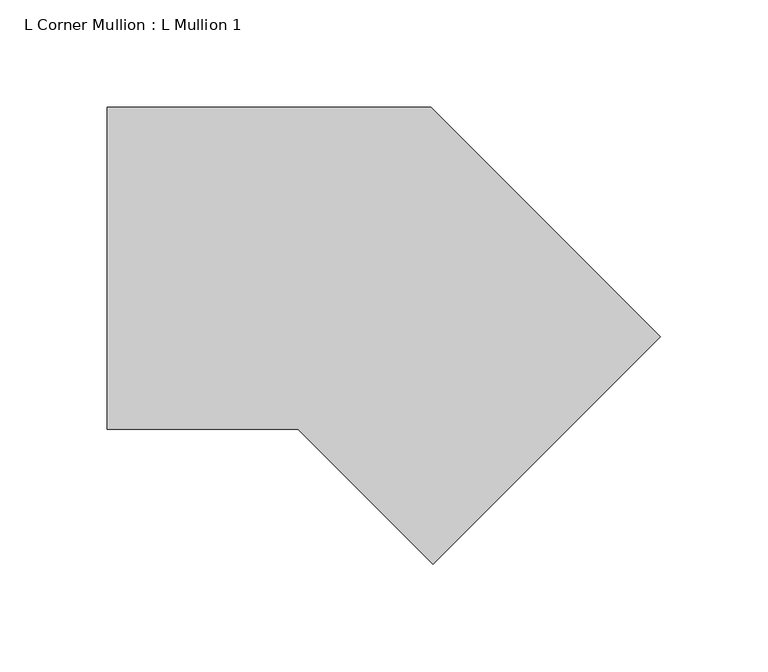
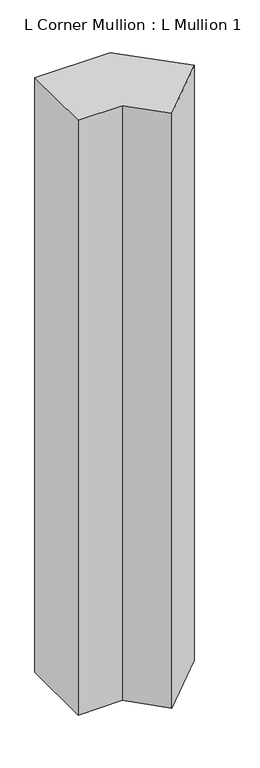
"""IFC4 building model written with IfcOpenShell, lengths in millimetres: member geometry, L Corner Mullion : L Mullion 1."""

from ifc_helpers import new_model, si_unit, frame, origin, place, context, project, spatial, polyline, outline, extrude, source, transform, mapped, element, save


def l_corner_mullion_l_mullion_1_84436f24(model_context):
    return source(origin(), model_context, "Body", "SweptSolid", [
        extrude(outline(polyline([(20.636039, -164.8858223), (-42.2497834, -102.0), (-131.1837662, -102.0), (-131.1837662, 48.0), (19.882251, 48.0), (126.7020561, -58.8198052), (20.636039, -164.8858223)])), frame((0.0, 0.0, -1260.0), z_axis=(0.0, 0.0, 1.0), x_axis=(1.0, 0.0, 0.0)), (0.0, 0.0, 1.0), 1260.0),
    ])


if __name__ == "__main__":
    model = new_model("IFC4")
    model_context = context("Model", 3, world=origin())
    ifc_project = project(units=[si_unit("LENGTHUNIT", "METRE", prefix="MILLI")], contexts=[model_context])
    site = spatial("IfcSite", under=ifc_project)
    building = spatial("IfcBuilding", under=site)
    placement = place(None, origin())
    l_corner_mullion_l_mullion_1_shape = l_corner_mullion_l_mullion_1_84436f24(model_context)
    element("IfcMember", 1, ObjectType="L Corner Mullion : L Mullion 1", at=placement, inside=building, context=model_context, shape_type="MappedRepresentation", body=[
        mapped(l_corner_mullion_l_mullion_1_shape, transform((0.0, 0.0, 0.0), x_axis=(1.0, 0.0, 0.0), y_axis=(0.0, 1.0, 0.0), z_axis=(0.0, 0.0, 1.0))),
    ])
    save(model, "model.ifc")
